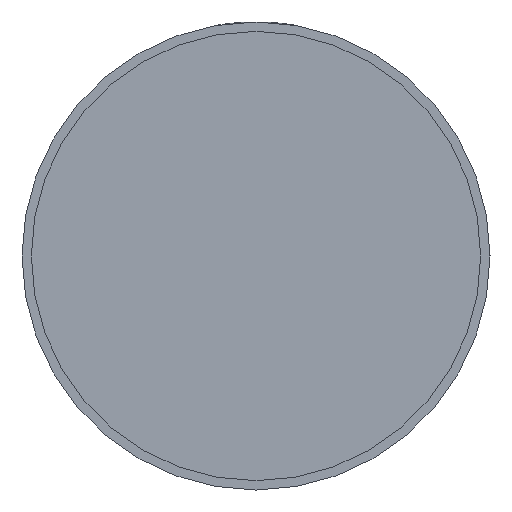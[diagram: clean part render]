
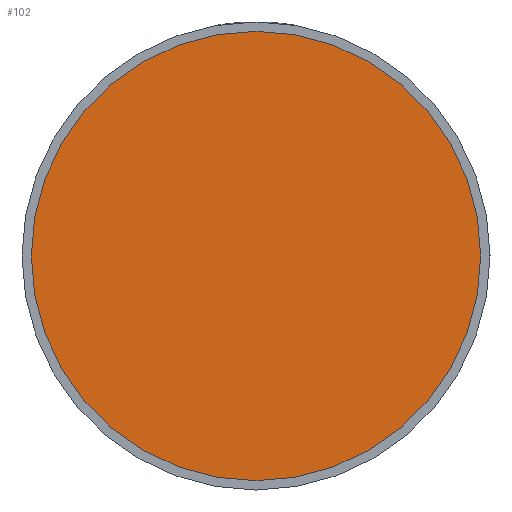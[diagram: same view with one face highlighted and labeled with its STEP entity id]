
A CAD part, left-side view. The second image highlights one B-rep face of the part: STEP entity #102.
In plain terms, the highlighted planar face has unit normal (-1, 0, 0).
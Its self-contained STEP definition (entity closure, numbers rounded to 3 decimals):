
#102 = ADVANCED_FACE ( 'NONE', ( #768 ), #789, .T. ) ;
#103 = EDGE_LOOP ( 'NONE', ( #104, #105 ) ) ;
#104 = ORIENTED_EDGE ( 'NONE', *, *, #158, .T. ) ;
#105 = ORIENTED_EDGE ( 'NONE', *, *, #142, .T. ) ;
#111 = VERTEX_POINT ( 'NONE', #775 ) ;
#142 = EDGE_CURVE ( 'NONE', #143, #111, #735, .T. ) ;
#143 = VERTEX_POINT ( 'NONE', #731 ) ;
#158 = EDGE_CURVE ( 'NONE', #111, #143, #740, .T. ) ;
#731 = CARTESIAN_POINT ( 'NONE',  ( -50., 0., 12. ) ) ;
#732 = DIRECTION ( 'NONE',  ( 0., 0., 1. ) ) ;
#733 = DIRECTION ( 'NONE',  ( -1., 0., 0. ) ) ;
#734 = AXIS2_PLACEMENT_3D ( 'NONE', #828, #733, #732 ) ;
#735 = CIRCLE ( 'NONE', #734, 12. ) ;
#736 = DIRECTION ( 'NONE',  ( 0., 0., 1. ) ) ;
#737 = DIRECTION ( 'NONE',  ( -1., 0., 0. ) ) ;
#738 = CARTESIAN_POINT ( 'NONE',  ( -50., 0., 0. ) ) ;
#739 = AXIS2_PLACEMENT_3D ( 'NONE', #738, #737, #736 ) ;
#740 = CIRCLE ( 'NONE', #739, 12. ) ;
#768 = FACE_OUTER_BOUND ( 'NONE', #103, .T. ) ;
#775 = CARTESIAN_POINT ( 'NONE',  ( -50., 0., -12. ) ) ;
#785 = DIRECTION ( 'NONE',  ( 0., 0., 1. ) ) ;
#786 = DIRECTION ( 'NONE',  ( -1., 0., 0. ) ) ;
#787 = CARTESIAN_POINT ( 'NONE',  ( -50., 0., 0. ) ) ;
#788 = AXIS2_PLACEMENT_3D ( 'NONE', #787, #786, #785 ) ;
#789 = PLANE ( 'NONE',  #788 ) ;
#828 = CARTESIAN_POINT ( 'NONE',  ( -50., 0., 0. ) ) ;
